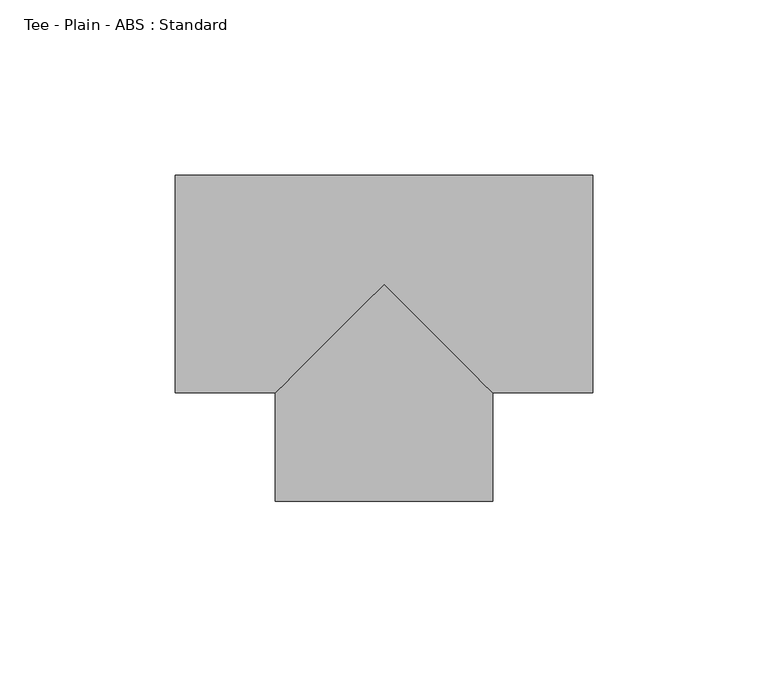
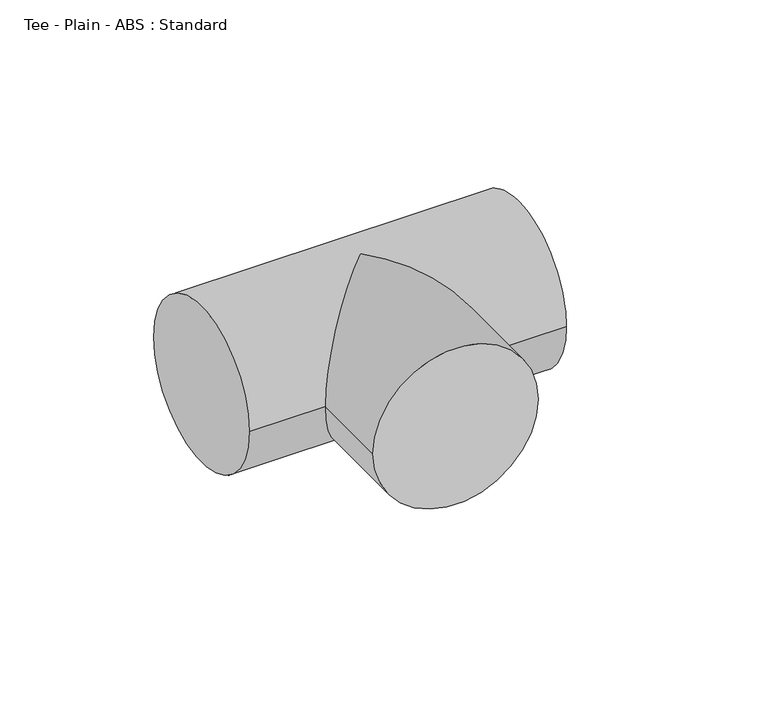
"""IFC4 building model written with IfcOpenShell, lengths in millimetres: pipe fitting geometry, Tee - Plain - ABS : Standard."""

from ifc_helpers import new_model, si_unit, frame, origin, place, context, project, spatial, circle_curve, ellipse_curve, source, transform, mapped, element, save
from ifc_brep_helpers import plane_surface, cylinder_surface, advanced_brep


def tee_plain_abs_standard_4f07c16c(model_context):
    return source(origin(), model_context, "Body", "AdvancedBrep", [
        advanced_brep(
        [(-59.5, -31.0, 0.0), (-59.5, 31.0, 0.0), (59.5, -31.0, 0.0), (59.5, 31.0, 0.0), (-31.0, -31.0, 0.0), (0.0, 0.0, 31.0), (31.0, -31.0, 0.0), (0.0, 0.0, -31.0), (-31.0, -62.0, 0.0), (31.0, -62.0, 0.0)],
        [
            (0, 1, circle_curve(frame((-59.5, 0.0, 0.0), z_axis=(-1.0, 0.0, 0.0), x_axis=(0.0, 1.0, 0.0)), 31.0)),
            (1, 0, circle_curve(frame((-59.5, 0.0, 0.0), z_axis=(-1.0, 0.0, 0.0), x_axis=(0.0, 1.0, 0.0)), 31.0)),
            (2, 3, circle_curve(frame((59.5, 0.0, 0.0), z_axis=(1.0, 0.0, 0.0), x_axis=(0.0, 1.0, 0.0)), 31.0)),
            (3, 2, circle_curve(frame((59.5, 0.0, 0.0), z_axis=(1.0, 0.0, 0.0), x_axis=(0.0, 1.0, 0.0)), 31.0)),
            (0, 4),
            (4, 5, ellipse_curve(frame((0.0, 0.0, 0.0), z_axis=(-0.7071067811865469, 0.7071067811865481, 0.0), x_axis=(-0.707106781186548, -0.7071067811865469, 0.0)), 43.8406204, 31.0)),
            (5, 6, ellipse_curve(frame((0.0, 0.0, 0.0), z_axis=(0.707106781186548, 0.7071067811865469, 0.0), x_axis=(-0.707106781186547, 0.707106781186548, 0.0)), 43.8406204, 31.0)),
            (6, 2),
            (3, 1),
            (6, 7, ellipse_curve(frame((0.0, 0.0, 0.0), z_axis=(0.707106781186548, 0.7071067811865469, 0.0), x_axis=(-0.707106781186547, 0.707106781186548, 0.0)), 43.8406204, 31.0)),
            (7, 4, ellipse_curve(frame((0.0, 0.0, 0.0), z_axis=(-0.7071067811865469, 0.7071067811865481, 0.0), x_axis=(-0.707106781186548, -0.7071067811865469, 0.0)), 43.8406204, 31.0)),
            (8, 9, circle_curve(frame((0.0, -62.0, 0.0), z_axis=(0.0, -1.0, 0.0), x_axis=(1.0, 0.0, 0.0)), 31.0)),
            (9, 8, circle_curve(frame((0.0, -62.0, 0.0), z_axis=(0.0, -1.0, 0.0), x_axis=(1.0, 0.0, 0.0)), 31.0)),
            (9, 6),
            (4, 8),
        ],
        [
            plane_surface(frame((-59.5, 0.0, 0.0), z_axis=(-1.0, 0.0, 0.0), x_axis=(0.0, 0.0, 1.0))),
            plane_surface(frame((59.5, 0.0, 0.0), z_axis=(1.0, 0.0, 0.0), x_axis=(0.0, 0.0, 1.0))),
            cylinder_surface(frame((-59.5, 0.0, 0.0), z_axis=(-1.0, 0.0, 0.0), x_axis=(0.0, 1.0, 0.0)), 31.0),
            plane_surface(frame((0.0, -62.0, 0.0), z_axis=(0.0, -1.0, 0.0), x_axis=(0.0, 0.0, 1.0))),
            cylinder_surface(frame((0.0, 0.0, 0.0), z_axis=(0.0, 1.0, 0.0), x_axis=(1.0, 0.0, 0.0)), 31.0),
        ],
        [
            (0, [[1, 2]]),
            (1, [[3, 4]]),
            (2, [[-1, 5, 6, 7, 8, -4, 9]]),
            (2, [[-2, -9, -3, -8, 10, 11, -5]]),
            (3, [[12, 13]]),
            (4, [[-13, 14, -7, -6, 15]]),
            (4, [[-12, -15, -11, -10, -14]]),
        ],
    ),
    ])


if __name__ == "__main__":
    model = new_model("IFC4")
    model_context = context("Model", 3, world=origin())
    ifc_project = project(units=[si_unit("LENGTHUNIT", "METRE", prefix="MILLI")], contexts=[model_context])
    site = spatial("IfcSite", under=ifc_project)
    building = spatial("IfcBuilding", under=site)
    placement = place(None, origin())
    tee_plain_abs_standard_shape = tee_plain_abs_standard_4f07c16c(model_context)
    element("IfcPipeFitting", 1, ObjectType="Tee - Plain - ABS : Standard", at=placement, inside=building, context=model_context, shape_type="MappedRepresentation", body=[
        mapped(tee_plain_abs_standard_shape, transform((0.0, 0.0, 0.0), x_axis=(1.0, 0.0, 0.0), y_axis=(0.0, 1.0, 0.0), z_axis=(0.0, 0.0, 1.0))),
    ])
    save(model, "model.ifc")
